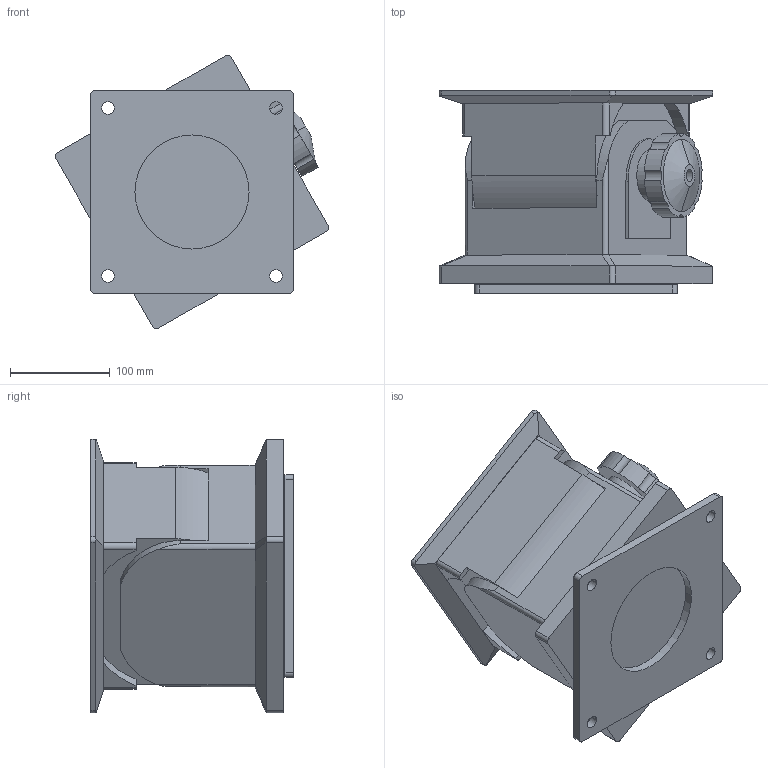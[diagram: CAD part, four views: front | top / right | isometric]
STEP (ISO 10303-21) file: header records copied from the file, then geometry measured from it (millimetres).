
FILE_DESCRIPTION((''),'1');
FILE_NAME('1','2001-04-17T',('jlue'),(''),'PRO/ENGINEER BY PARAMETRIC TECHNOLOGY CORPORATION, 9846','PRO/ENGINEER BY PARAMETRIC TECHNOLOGY CORPORATION, 9846','');
FILE_SCHEMA(('CONFIG_CONTROL_DESIGN'));
Length unit declared in the file: inch
Products named in the file (1): 1
Bounding box: 274.23 x 203.2 x 274.23 mm (x, y, z)
Surface area: 432763.2 mm2 (no closed solid volume)
Topology: 0 solids, 0 shells, 165 faces, 848 edges, 860 vertices
Faces by surface type: cylinder 81, plane 78, bspline 4, cone 2
Entity records: 4499 total; most frequent: DIRECTION 902, COMPOSITE_CURVE_SEGMENT 836, CARTESIAN_POINT 767, TRIMMED_CURVE 418, AXIS2_PLACEMENT_3D 323, VECTOR 256, LINE 256, CURVE_BOUNDED_SURFACE 165
